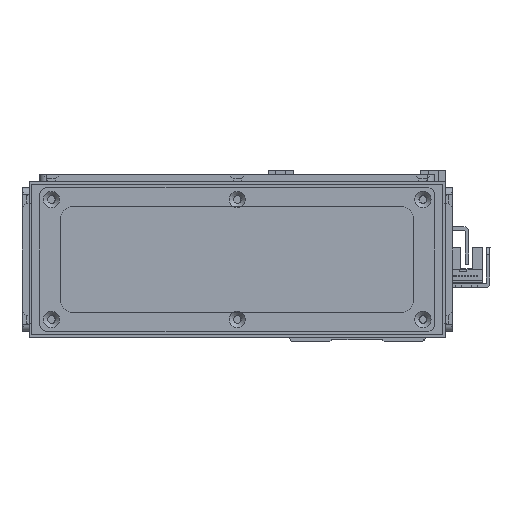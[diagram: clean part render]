
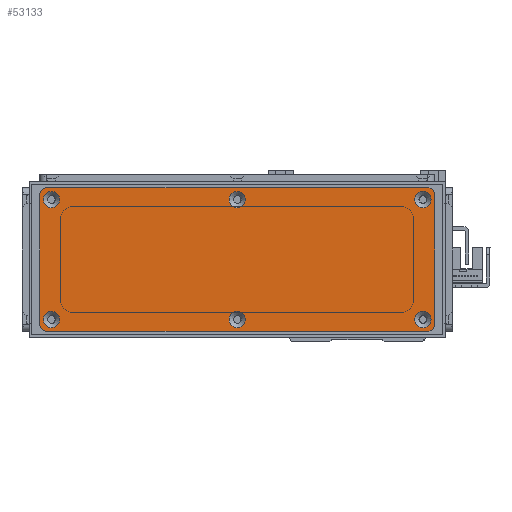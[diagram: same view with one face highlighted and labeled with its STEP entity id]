
A CAD part, left-side view. The second image highlights one B-rep face of the part: STEP entity #53133.
In plain terms, the highlighted planar face has unit normal (-1, 0, 0) as drawn and (0, 0, 1) by its records, which use the part's own axes.
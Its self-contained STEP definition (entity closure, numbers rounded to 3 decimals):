
#947=FACE_BOUND('',#8532,.T.);
#948=FACE_BOUND('',#8533,.T.);
#949=FACE_BOUND('',#8534,.T.);
#950=FACE_BOUND('',#8535,.T.);
#951=FACE_BOUND('',#8536,.T.);
#952=FACE_BOUND('',#8537,.T.);
#2905=PLANE('',#57143);
#5416=FACE_OUTER_BOUND('',#8531,.T.);
#8531=EDGE_LOOP('',(#48032,#48033,#48034,#48035,#48036,#48037,#48038,#48039));
#8532=EDGE_LOOP('',(#48040));
#8533=EDGE_LOOP('',(#48041));
#8534=EDGE_LOOP('',(#48042));
#8535=EDGE_LOOP('',(#48043));
#8536=EDGE_LOOP('',(#48044));
#8537=EDGE_LOOP('',(#48045));
#14618=LINE('',#85748,#20798);
#14621=LINE('',#85756,#20801);
#14624=LINE('',#85764,#20804);
#14627=LINE('',#85771,#20807);
#20798=VECTOR('',#69817,10.);
#20801=VECTOR('',#69826,10.);
#20804=VECTOR('',#69835,10.);
#20807=VECTOR('',#69844,10.);
#22302=CIRCLE('',#57097,3.45);
#22305=CIRCLE('',#57102,3.45);
#22308=CIRCLE('',#57107,3.45);
#22311=CIRCLE('',#57112,3.45);
#22314=CIRCLE('',#57117,3.45);
#22317=CIRCLE('',#57122,3.45);
#22324=CIRCLE('',#57132,3.);
#22325=CIRCLE('',#57135,3.);
#22326=CIRCLE('',#57138,3.);
#22327=CIRCLE('',#57141,3.);
#26975=VERTEX_POINT('',#85664);
#26978=VERTEX_POINT('',#85674);
#26981=VERTEX_POINT('',#85684);
#26984=VERTEX_POINT('',#85694);
#26987=VERTEX_POINT('',#85704);
#26990=VERTEX_POINT('',#85714);
#27001=VERTEX_POINT('',#85741);
#27002=VERTEX_POINT('',#85743);
#27003=VERTEX_POINT('',#85747);
#27004=VERTEX_POINT('',#85751);
#27005=VERTEX_POINT('',#85755);
#27006=VERTEX_POINT('',#85759);
#27007=VERTEX_POINT('',#85763);
#27008=VERTEX_POINT('',#85767);
#34085=EDGE_CURVE('',#26975,#26975,#22302,.T.);
#34090=EDGE_CURVE('',#26978,#26978,#22305,.T.);
#34095=EDGE_CURVE('',#26981,#26981,#22308,.T.);
#34100=EDGE_CURVE('',#26984,#26984,#22311,.T.);
#34105=EDGE_CURVE('',#26987,#26987,#22314,.T.);
#34110=EDGE_CURVE('',#26990,#26990,#22317,.T.);
#34124=EDGE_CURVE('',#27002,#27001,#22324,.T.);
#34126=EDGE_CURVE('',#27003,#27002,#14618,.T.);
#34128=EDGE_CURVE('',#27004,#27003,#22325,.T.);
#34130=EDGE_CURVE('',#27005,#27004,#14621,.T.);
#34132=EDGE_CURVE('',#27006,#27005,#22326,.T.);
#34134=EDGE_CURVE('',#27007,#27006,#14624,.T.);
#34136=EDGE_CURVE('',#27008,#27007,#22327,.T.);
#34138=EDGE_CURVE('',#27001,#27008,#14627,.T.);
#48032=ORIENTED_EDGE('',*,*,#34138,.T.);
#48033=ORIENTED_EDGE('',*,*,#34136,.T.);
#48034=ORIENTED_EDGE('',*,*,#34134,.T.);
#48035=ORIENTED_EDGE('',*,*,#34132,.T.);
#48036=ORIENTED_EDGE('',*,*,#34130,.T.);
#48037=ORIENTED_EDGE('',*,*,#34128,.T.);
#48038=ORIENTED_EDGE('',*,*,#34126,.T.);
#48039=ORIENTED_EDGE('',*,*,#34124,.T.);
#48040=ORIENTED_EDGE('',*,*,#34085,.T.);
#48041=ORIENTED_EDGE('',*,*,#34090,.T.);
#48042=ORIENTED_EDGE('',*,*,#34095,.T.);
#48043=ORIENTED_EDGE('',*,*,#34100,.T.);
#48044=ORIENTED_EDGE('',*,*,#34105,.T.);
#48045=ORIENTED_EDGE('',*,*,#34110,.T.);
#53133=ADVANCED_FACE('',(#5416,#947,#948,#949,#950,#951,#952),#2905,.T.);
#57097=AXIS2_PLACEMENT_3D('',#85665,#69725,#69726);
#57102=AXIS2_PLACEMENT_3D('',#85675,#69737,#69738);
#57107=AXIS2_PLACEMENT_3D('',#85685,#69749,#69750);
#57112=AXIS2_PLACEMENT_3D('',#85695,#69761,#69762);
#57117=AXIS2_PLACEMENT_3D('',#85705,#69773,#69774);
#57122=AXIS2_PLACEMENT_3D('',#85715,#69785,#69786);
#57132=AXIS2_PLACEMENT_3D('',#85744,#69812,#69813);
#57135=AXIS2_PLACEMENT_3D('',#85752,#69821,#69822);
#57138=AXIS2_PLACEMENT_3D('',#85760,#69830,#69831);
#57141=AXIS2_PLACEMENT_3D('',#85768,#69839,#69840);
#57143=AXIS2_PLACEMENT_3D('',#85772,#69845,#69846);
#69725=DIRECTION('center_axis',(0.,0.,-1.));
#69726=DIRECTION('ref_axis',(1.,0.,0.));
#69737=DIRECTION('center_axis',(0.,0.,-1.));
#69738=DIRECTION('ref_axis',(1.,0.,0.));
#69749=DIRECTION('center_axis',(0.,0.,-1.));
#69750=DIRECTION('ref_axis',(1.,0.,0.));
#69761=DIRECTION('center_axis',(0.,0.,-1.));
#69762=DIRECTION('ref_axis',(1.,0.,0.));
#69773=DIRECTION('center_axis',(0.,0.,-1.));
#69774=DIRECTION('ref_axis',(1.,0.,0.));
#69785=DIRECTION('center_axis',(0.,0.,-1.));
#69786=DIRECTION('ref_axis',(1.,0.,0.));
#69812=DIRECTION('center_axis',(0.,0.,1.));
#69813=DIRECTION('ref_axis',(-1.,0.,0.));
#69817=DIRECTION('',(0.,1.,0.));
#69821=DIRECTION('center_axis',(0.,0.,1.));
#69822=DIRECTION('ref_axis',(0.,1.,0.));
#69826=DIRECTION('',(1.,0.,0.));
#69830=DIRECTION('center_axis',(0.,0.,1.));
#69831=DIRECTION('ref_axis',(1.,0.,0.));
#69835=DIRECTION('',(0.,-1.,0.));
#69839=DIRECTION('center_axis',(0.,0.,1.));
#69840=DIRECTION('ref_axis',(0.,-1.,0.));
#69844=DIRECTION('',(-1.,0.,0.));
#69845=DIRECTION('center_axis',(0.,0.,1.));
#69846=DIRECTION('ref_axis',(1.,0.,0.));
#85664=CARTESIAN_POINT('',(-3.45,25.5,1.5));
#85665=CARTESIAN_POINT('Origin',(0.,25.5,1.5));
#85674=CARTESIAN_POINT('',(75.55,-25.5,1.5));
#85675=CARTESIAN_POINT('Origin',(79.,-25.5,1.5));
#85684=CARTESIAN_POINT('',(-82.45,25.5,1.5));
#85685=CARTESIAN_POINT('Origin',(-79.,25.5,1.5));
#85694=CARTESIAN_POINT('',(75.55,25.5,1.5));
#85695=CARTESIAN_POINT('Origin',(79.,25.5,1.5));
#85704=CARTESIAN_POINT('',(-82.45,-25.5,1.5));
#85705=CARTESIAN_POINT('Origin',(-79.,-25.5,1.5));
#85714=CARTESIAN_POINT('',(-3.45,-25.5,1.5));
#85715=CARTESIAN_POINT('Origin',(0.,-25.5,1.5));
#85741=CARTESIAN_POINT('',(81.,30.5,1.5));
#85743=CARTESIAN_POINT('',(84.,27.5,1.5));
#85744=CARTESIAN_POINT('Origin',(81.,27.5,1.5));
#85747=CARTESIAN_POINT('',(84.,-27.5,1.5));
#85748=CARTESIAN_POINT('',(84.,27.5,1.5));
#85751=CARTESIAN_POINT('',(81.,-30.5,1.5));
#85752=CARTESIAN_POINT('Origin',(81.,-27.5,1.5));
#85755=CARTESIAN_POINT('',(-81.,-30.5,1.5));
#85756=CARTESIAN_POINT('',(81.,-30.5,1.5));
#85759=CARTESIAN_POINT('',(-84.,-27.5,1.5));
#85760=CARTESIAN_POINT('Origin',(-81.,-27.5,1.5));
#85763=CARTESIAN_POINT('',(-84.,27.5,1.5));
#85764=CARTESIAN_POINT('',(-84.,-27.5,1.5));
#85767=CARTESIAN_POINT('',(-81.,30.5,1.5));
#85768=CARTESIAN_POINT('Origin',(-81.,27.5,1.5));
#85771=CARTESIAN_POINT('',(-81.,30.5,1.5));
#85772=CARTESIAN_POINT('Origin',(0.,0.,
1.5));
